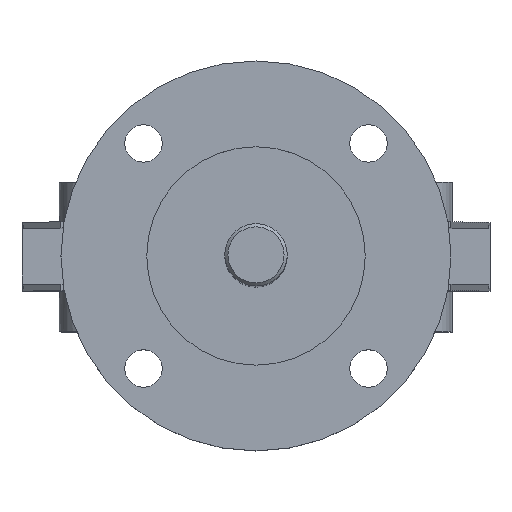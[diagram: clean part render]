
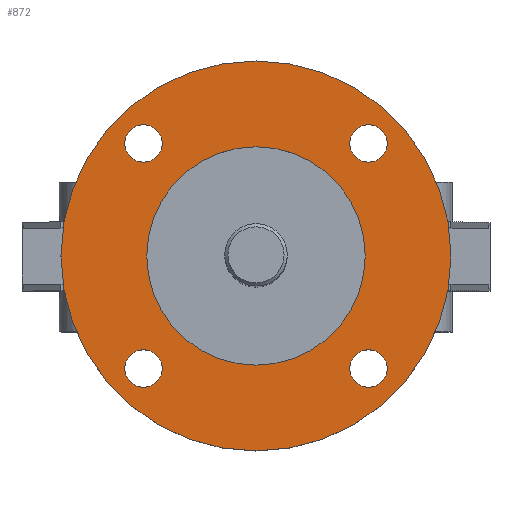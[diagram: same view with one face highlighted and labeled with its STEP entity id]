
A CAD part, top view. The second image highlights one B-rep face of the part: STEP entity #872.
In plain terms, the highlighted planar face has unit normal (0, 0, 1).
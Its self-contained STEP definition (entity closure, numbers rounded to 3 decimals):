
#872=ADVANCED_FACE('',(#2165,#2167,#2169,#2171,#2173,#2175),#2177,.T.);
#2165=FACE_BOUND('',#2166,.T.);
#2166=EDGE_LOOP('',(#3246));
#2167=FACE_BOUND('',#2168,.T.);
#2168=EDGE_LOOP('',(#3247));
#2169=FACE_BOUND('',#2170,.T.);
#2170=EDGE_LOOP('',(#3248));
#2171=FACE_BOUND('',#2172,.T.);
#2172=EDGE_LOOP('',(#3249));
#2173=FACE_BOUND('',#2174,.T.);
#2174=EDGE_LOOP('',(#3250));
#2175=FACE_BOUND('',#2176,.T.);
#2176=EDGE_LOOP('',(#3251));
#2177=PLANE('',#2178);
#2178=AXIS2_PLACEMENT_3D('',#2179,#2180,#2181);
#2179=CARTESIAN_POINT('',(0.,0.,247.));
#2180=DIRECTION('',(0.,0.,1.));
#2181=DIRECTION('',(-1.,0.,0.));
#3246=ORIENTED_EDGE('',*,*,#3729,.T.);
#3247=ORIENTED_EDGE('',*,*,#3730,.T.);
#3248=ORIENTED_EDGE('',*,*,#3731,.T.);
#3249=ORIENTED_EDGE('',*,*,#3732,.T.);
#3250=ORIENTED_EDGE('',*,*,#3853,.T.);
#3251=ORIENTED_EDGE('',*,*,#3733,.T.);
#3729=EDGE_CURVE('',#4290,#4290,#4291,.T.);
#3730=EDGE_CURVE('',#4292,#4292,#4293,.F.);
#3731=EDGE_CURVE('',#4294,#4294,#4295,.F.);
#3732=EDGE_CURVE('',#4296,#4296,#4297,.F.);
#3733=EDGE_CURVE('',#4298,#4298,#4299,.F.);
#3853=EDGE_CURVE('',#4501,#4501,#4502,.F.);
#4290=VERTEX_POINT('',#5428);
#4291=CIRCLE('',#5429,62.5);
#4292=VERTEX_POINT('',#5433);
#4293=CIRCLE('',#5434,6.);
#4294=VERTEX_POINT('',#5438);
#4295=CIRCLE('',#5439,6.);
#4296=VERTEX_POINT('',#5443);
#4297=CIRCLE('',#5444,6.);
#4298=VERTEX_POINT('',#5448);
#4299=CIRCLE('',#5449,6.);
#4501=VERTEX_POINT('',#5937);
#4502=CIRCLE('',#5938,35.);
#5428=CARTESIAN_POINT('',(-62.5,0.,247.));
#5429=AXIS2_PLACEMENT_3D('',#5430,#5431,#5432);
#5430=CARTESIAN_POINT('',(0.,0.,247.));
#5431=DIRECTION('',(0.,0.,1.));
#5432=DIRECTION('',(-1.,0.,0.));
#5433=CARTESIAN_POINT('',(-42.062,-36.062,247.));
#5434=AXIS2_PLACEMENT_3D('',#5435,#5436,#5437);
#5435=CARTESIAN_POINT('',(-36.062,-36.062,247.));
#5436=DIRECTION('',(0.,0.,1.));
#5437=DIRECTION('',(-1.,0.,0.));
#5438=CARTESIAN_POINT('',(36.062,-42.062,247.));
#5439=AXIS2_PLACEMENT_3D('',#5440,#5441,#5442);
#5440=CARTESIAN_POINT('',(36.062,-36.062,247.));
#5441=DIRECTION('',(0.,0.,1.));
#5442=DIRECTION('',(0.,-1.,0.));
#5443=CARTESIAN_POINT('',(42.062,36.062,247.));
#5444=AXIS2_PLACEMENT_3D('',#5445,#5446,#5447);
#5445=CARTESIAN_POINT('',(36.062,36.062,247.));
#5446=DIRECTION('',(0.,0.,1.));
#5447=DIRECTION('',(1.,0.,-0.));
#5448=CARTESIAN_POINT('',(-36.062,42.062,247.));
#5449=AXIS2_PLACEMENT_3D('',#5450,#5451,#5452);
#5450=CARTESIAN_POINT('',(-36.062,36.062,247.));
#5451=DIRECTION('',(0.,0.,1.));
#5452=DIRECTION('',(0.,1.,0.));
#5937=CARTESIAN_POINT('',(0.,35.,247.));
#5938=AXIS2_PLACEMENT_3D('',#5939,#5940,#5941);
#5939=CARTESIAN_POINT('',(0.,0.,247.));
#5940=DIRECTION('',(0.,0.,1.));
#5941=DIRECTION('',(0.,1.,0.));
